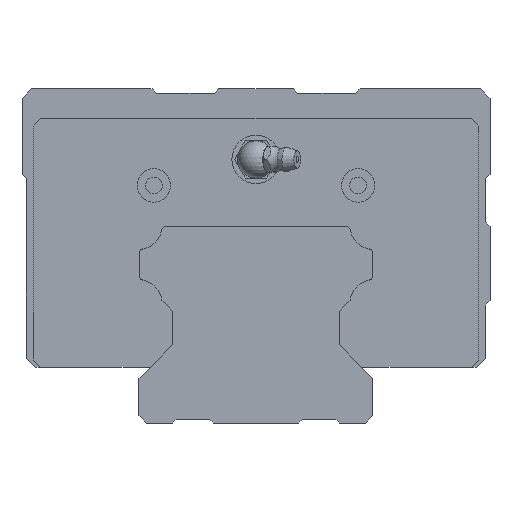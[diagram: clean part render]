
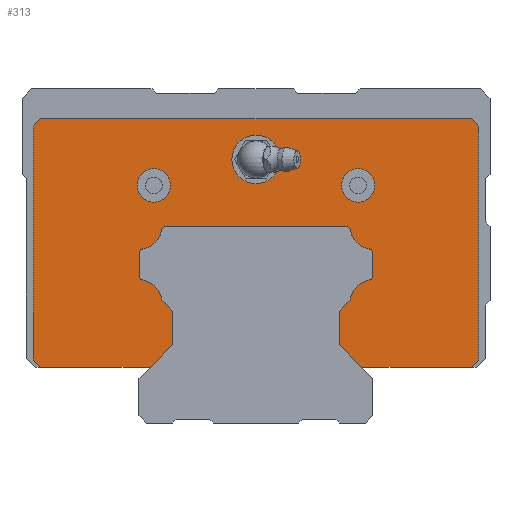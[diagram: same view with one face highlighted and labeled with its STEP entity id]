
A CAD part, front view. The second image highlights one B-rep face of the part: STEP entity #313.
In plain terms, the highlighted planar face has unit normal (0, -1, 0).
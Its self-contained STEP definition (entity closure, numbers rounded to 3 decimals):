
#313=ADVANCED_FACE('',(#1254,#1255,#1256,#596),#454,.T.);
#454=PLANE('',#3377);
#596=FACE_OUTER_BOUND('',#1457,.T.);
#714=LINE('',#4562,#991);
#718=LINE('',#4571,#995);
#721=LINE('',#4577,#998);
#725=LINE('',#4585,#1002);
#804=LINE('',#4750,#1081);
#807=LINE('',#4757,#1084);
#810=LINE('',#4763,#1087);
#813=LINE('',#4769,#1090);
#818=LINE('',#4787,#1095);
#824=LINE('',#4811,#1101);
#830=LINE('',#4835,#1107);
#861=LINE('',#4962,#1138);
#863=LINE('',#4968,#1140);
#865=LINE('',#4972,#1142);
#867=LINE('',#4976,#1144);
#869=LINE('',#4980,#1146);
#871=LINE('',#4986,#1148);
#872=LINE('',#4988,#1149);
#991=VECTOR('',#3700,1.);
#995=VECTOR('',#3706,1.);
#998=VECTOR('',#3711,1.);
#1002=VECTOR('',#3717,1.);
#1081=VECTOR('',#3852,1.);
#1084=VECTOR('',#3857,1.);
#1087=VECTOR('',#3862,1.);
#1090=VECTOR('',#3867,1.);
#1095=VECTOR('',#3886,1.);
#1101=VECTOR('',#3912,1.);
#1107=VECTOR('',#3938,1.);
#1138=VECTOR('',#4083,1.);
#1140=VECTOR('',#4089,1.);
#1142=VECTOR('',#4093,1.);
#1144=VECTOR('',#4097,1.);
#1146=VECTOR('',#4101,1.);
#1148=VECTOR('',#4107,1.);
#1149=VECTOR('',#4110,1.);
#1254=FACE_BOUND('',#1454,.T.);
#1255=FACE_BOUND('',#1455,.T.);
#1256=FACE_BOUND('',#1456,.T.);
#1454=EDGE_LOOP('',(#2124));
#1455=EDGE_LOOP('',(#2125));
#1456=EDGE_LOOP('',(#2126));
#1457=EDGE_LOOP('',(#2127,#2128,#2129,#2130,#2131,#2132,#2133,#2134,#2135,
#2136,#2137,#2138,#2139,#2140,#2141,#2142,#2143,#2144,#2145,#2146,#2147,
#2148,#2149,#2150,#2151,#2152,#2153,#2154));
#2124=ORIENTED_EDGE('',*,*,#2956,.T.);
#2125=ORIENTED_EDGE('',*,*,#2957,.T.);
#2126=ORIENTED_EDGE('',*,*,#2958,.T.);
#2127=ORIENTED_EDGE('',*,*,#2892,.T.);
#2128=ORIENTED_EDGE('',*,*,#2894,.T.);
#2129=ORIENTED_EDGE('',*,*,#2753,.T.);
#2130=ORIENTED_EDGE('',*,*,#2757,.T.);
#2131=ORIENTED_EDGE('',*,*,#2760,.T.);
#2132=ORIENTED_EDGE('',*,*,#2764,.T.);
#2133=ORIENTED_EDGE('',*,*,#2942,.T.);
#2134=ORIENTED_EDGE('',*,*,#2945,.T.);
#2135=ORIENTED_EDGE('',*,*,#2947,.T.);
#2136=ORIENTED_EDGE('',*,*,#2949,.T.);
#2137=ORIENTED_EDGE('',*,*,#2951,.T.);
#2138=ORIENTED_EDGE('',*,*,#2954,.T.);
#2139=ORIENTED_EDGE('',*,*,#2955,.T.);
#2140=ORIENTED_EDGE('',*,*,#2847,.T.);
#2141=ORIENTED_EDGE('',*,*,#2850,.T.);
#2142=ORIENTED_EDGE('',*,*,#2853,.T.);
#2143=ORIENTED_EDGE('',*,*,#2856,.T.);
#2144=ORIENTED_EDGE('',*,*,#2859,.T.);
#2145=ORIENTED_EDGE('',*,*,#2862,.T.);
#2146=ORIENTED_EDGE('',*,*,#2865,.T.);
#2147=ORIENTED_EDGE('',*,*,#2868,.T.);
#2148=ORIENTED_EDGE('',*,*,#2871,.T.);
#2149=ORIENTED_EDGE('',*,*,#2874,.T.);
#2150=ORIENTED_EDGE('',*,*,#2877,.T.);
#2151=ORIENTED_EDGE('',*,*,#2880,.T.);
#2152=ORIENTED_EDGE('',*,*,#2883,.T.);
#2153=ORIENTED_EDGE('',*,*,#2886,.T.);
#2154=ORIENTED_EDGE('',*,*,#2889,.T.);
#2429=VERTEX_POINT('',#4561);
#2430=VERTEX_POINT('',#4563);
#2433=VERTEX_POINT('',#4570);
#2435=VERTEX_POINT('',#4576);
#2438=VERTEX_POINT('',#4584);
#2496=VERTEX_POINT('',#4749);
#2497=VERTEX_POINT('',#4751);
#2499=VERTEX_POINT('',#4756);
#2501=VERTEX_POINT('',#4762);
#2503=VERTEX_POINT('',#4768);
#2505=VERTEX_POINT('',#4774);
#2507=VERTEX_POINT('',#4780);
#2509=VERTEX_POINT('',#4786);
#2511=VERTEX_POINT('',#4792);
#2513=VERTEX_POINT('',#4798);
#2515=VERTEX_POINT('',#4804);
#2517=VERTEX_POINT('',#4810);
#2519=VERTEX_POINT('',#4816);
#2521=VERTEX_POINT('',#4822);
#2523=VERTEX_POINT('',#4828);
#2525=VERTEX_POINT('',#4834);
#2527=VERTEX_POINT('',#4840);
#2564=VERTEX_POINT('',#4961);
#2566=VERTEX_POINT('',#4967);
#2567=VERTEX_POINT('',#4971);
#2568=VERTEX_POINT('',#4975);
#2569=VERTEX_POINT('',#4979);
#2571=VERTEX_POINT('',#4985);
#2572=VERTEX_POINT('',#4991);
#2573=VERTEX_POINT('',#4993);
#2574=VERTEX_POINT('',#4995);
#2753=EDGE_CURVE('',#2430,#2429,#714,.T.);
#2757=EDGE_CURVE('',#2429,#2433,#718,.T.);
#2760=EDGE_CURVE('',#2433,#2435,#721,.T.);
#2764=EDGE_CURVE('',#2435,#2438,#725,.T.);
#2847=EDGE_CURVE('',#2497,#2496,#804,.T.);
#2850=EDGE_CURVE('',#2496,#2499,#807,.T.);
#2853=EDGE_CURVE('',#2499,#2501,#810,.T.);
#2856=EDGE_CURVE('',#2501,#2503,#813,.T.);
#2859=EDGE_CURVE('',#2503,#2505,#3093,.T.);
#2862=EDGE_CURVE('',#2505,#2507,#3095,.T.);
#2865=EDGE_CURVE('',#2507,#2509,#818,.T.);
#2868=EDGE_CURVE('',#2509,#2511,#3097,.T.);
#2871=EDGE_CURVE('',#2511,#2513,#3099,.T.);
#2874=EDGE_CURVE('',#2513,#2515,#3101,.T.);
#2877=EDGE_CURVE('',#2515,#2517,#824,.T.);
#2880=EDGE_CURVE('',#2517,#2519,#3103,.T.);
#2883=EDGE_CURVE('',#2519,#2521,#3105,.T.);
#2886=EDGE_CURVE('',#2521,#2523,#3107,.T.);
#2889=EDGE_CURVE('',#2523,#2525,#830,.T.);
#2892=EDGE_CURVE('',#2525,#2527,#3109,.T.);
#2894=EDGE_CURVE('',#2527,#2430,#3111,.T.);
#2942=EDGE_CURVE('',#2438,#2564,#861,.T.);
#2945=EDGE_CURVE('',#2564,#2566,#863,.T.);
#2947=EDGE_CURVE('',#2566,#2567,#865,.T.);
#2949=EDGE_CURVE('',#2567,#2568,#867,.T.);
#2951=EDGE_CURVE('',#2568,#2569,#869,.T.);
#2954=EDGE_CURVE('',#2569,#2571,#871,.T.);
#2955=EDGE_CURVE('',#2571,#2497,#872,.T.);
#2956=EDGE_CURVE('',#2572,#2572,#3133,.T.);
#2957=EDGE_CURVE('',#2573,#2573,#3134,.T.);
#2958=EDGE_CURVE('',#2574,#2574,#3135,.T.);
#3093=CIRCLE('',#3282,6.4);
#3095=CIRCLE('',#3285,1.2);
#3097=CIRCLE('',#3289,1.2);
#3099=CIRCLE('',#3292,6.4);
#3101=CIRCLE('',#3295,1.2);
#3103=CIRCLE('',#3299,1.2);
#3105=CIRCLE('',#3302,6.4);
#3107=CIRCLE('',#3305,1.2);
#3109=CIRCLE('',#3309,1.2);
#3111=CIRCLE('',#3312,6.4);
#3133=CIRCLE('',#3374,4.5);
#3134=CIRCLE('',#3375,6.5);
#3135=CIRCLE('',#3376,4.5);
#3282=AXIS2_PLACEMENT_3D('',#4775,#3872,#3873);
#3285=AXIS2_PLACEMENT_3D('',#4781,#3879,#3880);
#3289=AXIS2_PLACEMENT_3D('',#4793,#3891,#3892);
#3292=AXIS2_PLACEMENT_3D('',#4799,#3898,#3899);
#3295=AXIS2_PLACEMENT_3D('',#4805,#3905,#3906);
#3299=AXIS2_PLACEMENT_3D('',#4817,#3917,#3918);
#3302=AXIS2_PLACEMENT_3D('',#4823,#3924,#3925);
#3305=AXIS2_PLACEMENT_3D('',#4829,#3931,#3932);
#3309=AXIS2_PLACEMENT_3D('',#4841,#3943,#3944);
#3312=AXIS2_PLACEMENT_3D('',#4844,#3949,#3950);
#3374=AXIS2_PLACEMENT_3D('',#4990,#4113,#4114);
#3375=AXIS2_PLACEMENT_3D('',#4992,#4115,#4116);
#3376=AXIS2_PLACEMENT_3D('',#4994,#4117,#4118);
#3377=AXIS2_PLACEMENT_3D('',#4996,#4119,#4120);
#3700=DIRECTION('',(-0.707,0.,-0.707));
#3706=DIRECTION('',(0.,0.,-1.));
#3711=DIRECTION('',(0.707,0.,-0.707));
#3717=DIRECTION('',(1.,0.,0.));
#3852=DIRECTION('',(1.,0.,0.));
#3857=DIRECTION('',(0.707,0.,0.707));
#3862=DIRECTION('',(0.,0.,1.));
#3867=DIRECTION('',(-0.707,0.,0.707));
#3872=DIRECTION('',(0.,-1.,0.));
#3873=DIRECTION('',(-1.,0.,0.));
#3879=DIRECTION('',(0.,1.,0.));
#3880=DIRECTION('',(-1.,0.,0.));
#3886=DIRECTION('',(0.,0.,1.));
#3891=DIRECTION('',(0.,1.,0.));
#3892=DIRECTION('',(-1.,0.,0.));
#3898=DIRECTION('',(0.,-1.,0.));
#3899=DIRECTION('',(-1.,0.,0.));
#3905=DIRECTION('',(0.,1.,0.));
#3906=DIRECTION('',(-1.,0.,0.));
#3912=DIRECTION('',(1.,0.,0.));
#3917=DIRECTION('',(0.,1.,0.));
#3918=DIRECTION('',(-1.,0.,0.));
#3924=DIRECTION('',(0.,-1.,0.));
#3925=DIRECTION('',(-1.,0.,0.));
#3931=DIRECTION('',(0.,1.,0.));
#3932=DIRECTION('',(-1.,0.,0.));
#3938=DIRECTION('',(0.,0.,-1.));
#3943=DIRECTION('',(0.,1.,0.));
#3944=DIRECTION('',(-1.,0.,0.));
#3949=DIRECTION('',(0.,-1.,0.));
#3950=DIRECTION('',(-1.,0.,0.));
#4083=DIRECTION('',(0.707,0.,0.707));
#4089=DIRECTION('',(0.,0.,1.));
#4093=DIRECTION('',(-0.707,0.,0.707));
#4097=DIRECTION('',(-1.,0.,0.));
#4101=DIRECTION('',(-0.707,0.,-0.707));
#4107=DIRECTION('',(0.,0.,-1.));
#4110=DIRECTION('',(0.707,0.,-0.707));
#4113=DIRECTION('',(0.,1.,0.));
#4114=DIRECTION('',(-1.,0.,0.));
#4115=DIRECTION('',(0.,1.,0.));
#4116=DIRECTION('',(-1.,0.,0.));
#4117=DIRECTION('',(0.,1.,0.));
#4118=DIRECTION('',(-1.,0.,0.));
#4119=DIRECTION('',(0.,-1.,0.));
#4120=DIRECTION('',(0.,0.,-1.));
#4561=CARTESIAN_POINT('',(22.4,-359.5,30.141));
#4562=CARTESIAN_POINT('',(25.323,-359.5,33.064));
#4563=CARTESIAN_POINT('',(25.323,-359.5,33.064));
#4570=CARTESIAN_POINT('',(22.4,-359.5,21.1));
#4571=CARTESIAN_POINT('',(22.4,-359.5,30.141));
#4576=CARTESIAN_POINT('',(28.5,-359.5,15.));
#4577=CARTESIAN_POINT('',(22.4,-359.5,21.1));
#4584=CARTESIAN_POINT('',(58.,-359.5,15.));
#4585=CARTESIAN_POINT('',(28.5,-359.5,15.));
#4749=CARTESIAN_POINT('',(-28.5,-359.5,15.));
#4750=CARTESIAN_POINT('',(-58.,-359.5,15.));
#4751=CARTESIAN_POINT('',(-58.,-359.5,15.));
#4756=CARTESIAN_POINT('',(-22.4,-359.5,21.1));
#4757=CARTESIAN_POINT('',(-28.5,-359.5,15.));
#4762=CARTESIAN_POINT('',(-22.4,-359.5,30.141));
#4763=CARTESIAN_POINT('',(-22.4,-359.5,21.1));
#4768=CARTESIAN_POINT('',(-25.323,-359.5,33.064));
#4769=CARTESIAN_POINT('',(-22.4,-359.5,30.141));
#4774=CARTESIAN_POINT('',(-30.432,-359.5,38.511));
#4775=CARTESIAN_POINT('',(-31.668,-359.5,32.232));
#4780=CARTESIAN_POINT('',(-31.4,-359.5,39.688));
#4781=CARTESIAN_POINT('',(-30.2,-359.5,39.688));
#4786=CARTESIAN_POINT('',(-31.4,-359.5,45.712));
#4787=CARTESIAN_POINT('',(-31.4,-359.5,39.688));
#4792=CARTESIAN_POINT('',(-30.432,-359.5,46.889));
#4793=CARTESIAN_POINT('',(-30.2,-359.5,45.712));
#4798=CARTESIAN_POINT('',(-25.389,-359.5,51.932));
#4799=CARTESIAN_POINT('',(-31.668,-359.5,53.168));
#4804=CARTESIAN_POINT('',(-24.212,-359.5,52.9));
#4805=CARTESIAN_POINT('',(-24.212,-359.5,51.7));
#4810=CARTESIAN_POINT('',(24.212,-359.5,52.9));
#4811=CARTESIAN_POINT('',(-24.212,-359.5,52.9));
#4816=CARTESIAN_POINT('',(25.389,-359.5,51.932));
#4817=CARTESIAN_POINT('',(24.212,-359.5,51.7));
#4822=CARTESIAN_POINT('',(30.432,-359.5,46.889));
#4823=CARTESIAN_POINT('',(31.668,-359.5,53.168));
#4828=CARTESIAN_POINT('',(31.4,-359.5,45.712));
#4829=CARTESIAN_POINT('',(30.2,-359.5,45.712));
#4834=CARTESIAN_POINT('',(31.4,-359.5,39.688));
#4835=CARTESIAN_POINT('',(31.4,-359.5,45.712));
#4840=CARTESIAN_POINT('',(30.432,-359.5,38.511));
#4841=CARTESIAN_POINT('',(30.2,-359.5,39.688));
#4844=CARTESIAN_POINT('',(31.668,-359.5,32.232));
#4961=CARTESIAN_POINT('',(60.,-359.5,17.));
#4962=CARTESIAN_POINT('',(58.,-359.5,15.));
#4967=CARTESIAN_POINT('',(60.,-359.5,80.));
#4968=CARTESIAN_POINT('',(60.,-359.5,17.));
#4971=CARTESIAN_POINT('',(58.,-359.5,82.));
#4972=CARTESIAN_POINT('',(60.,-359.5,80.));
#4975=CARTESIAN_POINT('',(-58.,-359.5,82.));
#4976=CARTESIAN_POINT('',(58.,-359.5,82.));
#4979=CARTESIAN_POINT('',(-60.,-359.5,80.));
#4980=CARTESIAN_POINT('',(-58.,-359.5,82.));
#4985=CARTESIAN_POINT('',(-60.,-359.5,17.));
#4986=CARTESIAN_POINT('',(-60.,-359.5,80.));
#4988=CARTESIAN_POINT('',(-60.,-359.5,17.));
#4990=CARTESIAN_POINT('',(27.5,-359.5,64.));
#4991=CARTESIAN_POINT('',(23.,-359.5,64.));
#4992=CARTESIAN_POINT('',(0.,-359.5,70.997));
#4993=CARTESIAN_POINT('',(-6.5,-359.5,70.997));
#4994=CARTESIAN_POINT('',(-27.5,-359.5,64.));
#4995=CARTESIAN_POINT('',(-32.,-359.5,64.));
#4996=CARTESIAN_POINT('',(30.2,-359.5,39.688));
